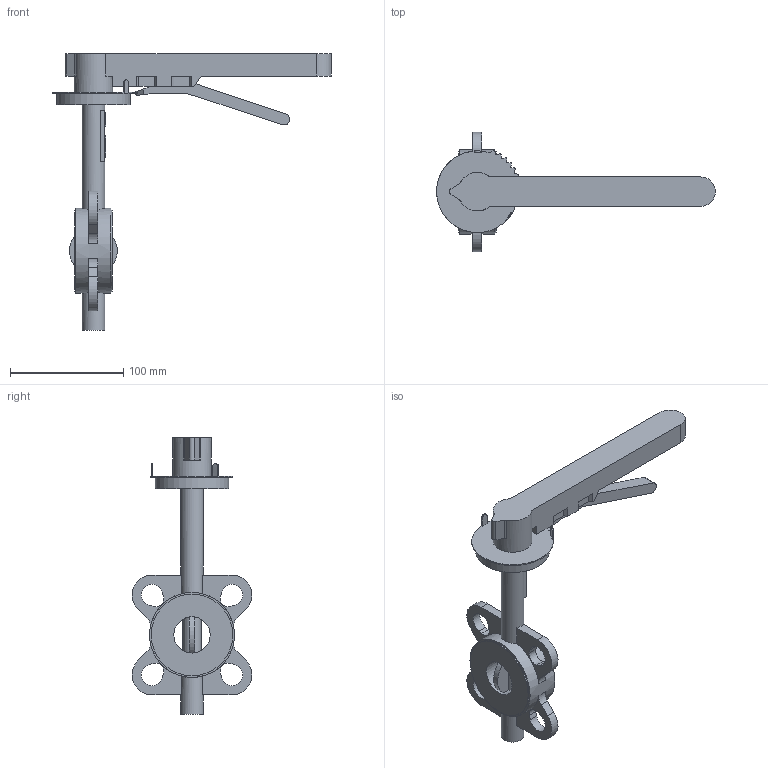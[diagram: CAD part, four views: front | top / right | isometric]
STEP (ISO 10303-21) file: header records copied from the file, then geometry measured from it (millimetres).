
FILE_DESCRIPTION(('STEP AP203'), '1');
FILE_NAME('Çàòâîð 017W.ZS DN32 PN10_16 ðóêîÿòêà', '', ('UNSPECIFIED'), ('UNSPECIFIED'), 'ASCON STEP Converter 1.6', 'ASCON Math Kernel', '');
FILE_SCHEMA(('CONFIG_CONTROL_DESIGN'));
Length unit declared in the file: millimetre
Bounding box: 245.97 x 105.66 x 244 mm (x, y, z)
Volume: 391216.9 mm3; surface area: 78276.1 mm2
Topology: 1 solids, 1 shells, 693 faces, 1986 edges, 1322 vertices
Faces by surface type: cylinder 409, plane 284
Full cylindrical faces by diameter (mm): 8 x4, 20 x2, 32 x1, 34 x1, 65 x1, 72 x2, 75 x1
Entity records: 29404 total; most frequent: CARTESIAN_POINT 4912, DIRECTION 4171, ORIENTED_EDGE 3948, EDGE_CURVE 1974, AXIS2_PLACEMENT_3D 1524, VERTEX_POINT 1322, LINE 1123, VECTOR 1123
